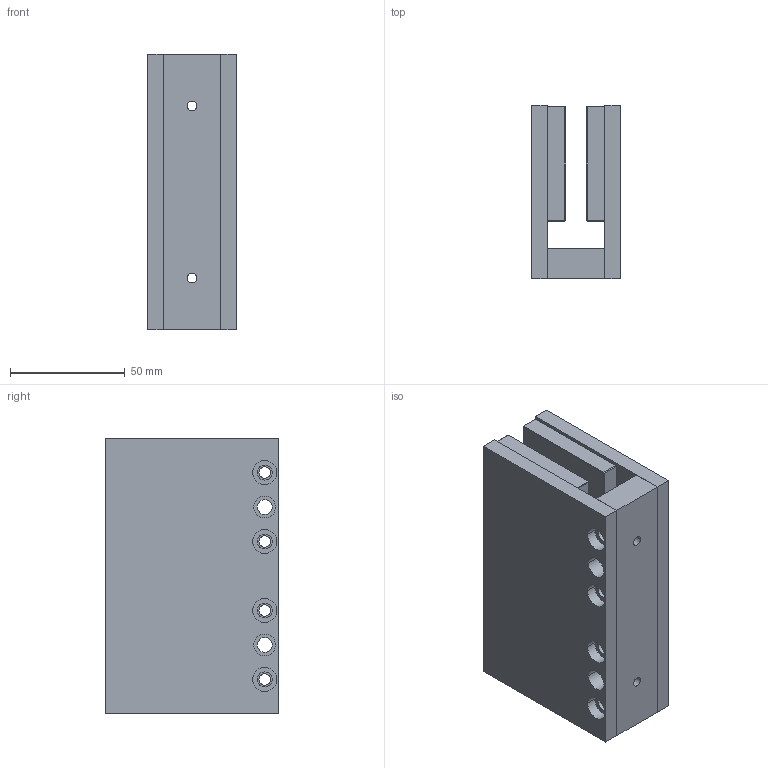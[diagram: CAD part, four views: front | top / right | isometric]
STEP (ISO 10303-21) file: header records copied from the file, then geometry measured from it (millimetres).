
FILE_DESCRIPTION (( 'STEP AP214' ), '1' );
FILE_NAME ('JKA4-120.STEP', '2025-09-05T08:41:34', ( '' ), ( '' ), 'SwSTEP 2.0', 'SolidWorks 2016', '' );
FILE_SCHEMA (( 'AUTOMOTIVE_DESIGN' ));
Length unit declared in the file: millimetre
Products named in the file (1): JKA4-120
Bounding box: 38.6 x 75.3 x 120 mm (x, y, z)
Volume: 241133.8 mm3; surface area: 86927.8 mm2
Topology: 11 solids, 11 shells, 290 faces, 588 edges, 328 vertices
Faces by surface type: plane 234, cylinder 56
Entity records: 10662 total; most frequent: DIRECTION 1282, CARTESIAN_POINT 1207, ORIENTED_EDGE 1176, EDGE_CURVE 588, LINE 476, VECTOR 476, AXIS2_PLACEMENT_3D 403, EDGE_LOOP 338
